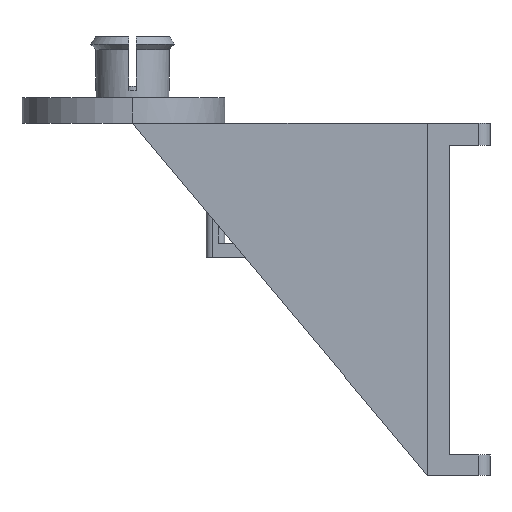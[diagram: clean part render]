
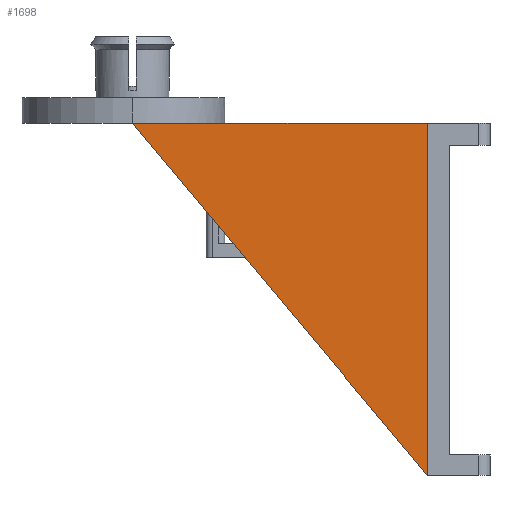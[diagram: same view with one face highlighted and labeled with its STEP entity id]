
A CAD part, left-side view. The second image highlights one B-rep face of the part: STEP entity #1698.
In plain terms, the highlighted planar face has unit normal (-1, 0, 0).
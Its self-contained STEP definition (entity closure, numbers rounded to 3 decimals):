
#212 = PLANE('',#213);
#213 = AXIS2_PLACEMENT_3D('',#214,#215,#216);
#214 = CARTESIAN_POINT('',(36.,35.6,38.4));
#215 = DIRECTION('',(0.,0.,1.));
#216 = DIRECTION('',(1.,0.,-0.));
#238 = PLANE('',#239);
#239 = AXIS2_PLACEMENT_3D('',#240,#241,#242);
#240 = CARTESIAN_POINT('',(37.2,38.,0.2));
#241 = DIRECTION('',(0.,1.,0.));
#242 = DIRECTION('',(1.,0.,0.));
#399 = VERTEX_POINT('',#400);
#400 = CARTESIAN_POINT('',(42.,38.,0.2));
#414 = PLANE('',#415);
#415 = AXIS2_PLACEMENT_3D('',#416,#417,#418);
#416 = CARTESIAN_POINT('',(42.,38.,0.2));
#417 = DIRECTION('',(0.,-0.767,0.642)
  );
#418 = DIRECTION('',(0.,0.642,0.767)
  );
#952 = VERTEX_POINT('',#953);
#953 = CARTESIAN_POINT('',(42.,65.641,38.4));
#980 = EDGE_CURVE('',#952,#981,#983,.T.);
#981 = VERTEX_POINT('',#982);
#982 = CARTESIAN_POINT('',(42.,38.,38.4));
#983 = SURFACE_CURVE('',#984,(#988,#995),.PCURVE_S1.);
#984 = LINE('',#985,#986);
#985 = CARTESIAN_POINT('',(42.,65.641,38.4));
#986 = VECTOR('',#987,1.);
#987 = DIRECTION('',(0.,-1.,0.));
#988 = PCURVE('',#212,#989);
#989 = DEFINITIONAL_REPRESENTATION('',(#990),#994);
#990 = LINE('',#991,#992);
#991 = CARTESIAN_POINT('',(6.,30.041));
#992 = VECTOR('',#993,1.);
#993 = DIRECTION('',(0.,-1.));
#994 = ( GEOMETRIC_REPRESENTATION_CONTEXT(2) 
PARAMETRIC_REPRESENTATION_CONTEXT() REPRESENTATION_CONTEXT('2D SPACE',''
  ) );
#995 = PCURVE('',#996,#1001);
#996 = PLANE('',#997);
#997 = AXIS2_PLACEMENT_3D('',#998,#999,#1000);
#998 = CARTESIAN_POINT('',(42.,48.908,24.392));
#999 = DIRECTION('',(1.,0.,0.));
#1000 = DIRECTION('',(0.,1.,0.));
#1001 = DEFINITIONAL_REPRESENTATION('',(#1002),#1006);
#1002 = LINE('',#1003,#1004);
#1003 = CARTESIAN_POINT('',(16.733,14.008));
#1004 = VECTOR('',#1005,1.);
#1005 = DIRECTION('',(-1.,0.));
#1006 = ( GEOMETRIC_REPRESENTATION_CONTEXT(2) 
PARAMETRIC_REPRESENTATION_CONTEXT() REPRESENTATION_CONTEXT('2D SPACE',''
  ) );
#1035 = EDGE_CURVE('',#981,#399,#1036,.T.);
#1036 = SURFACE_CURVE('',#1037,(#1041,#1048),.PCURVE_S1.);
#1037 = LINE('',#1038,#1039);
#1038 = CARTESIAN_POINT('',(42.,38.,38.4));
#1039 = VECTOR('',#1040,1.);
#1040 = DIRECTION('',(0.,0.,-1.));
#1041 = PCURVE('',#238,#1042);
#1042 = DEFINITIONAL_REPRESENTATION('',(#1043),#1047);
#1043 = LINE('',#1044,#1045);
#1044 = CARTESIAN_POINT('',(4.8,-38.2));
#1045 = VECTOR('',#1046,1.);
#1046 = DIRECTION('',(0.,1.));
#1047 = ( GEOMETRIC_REPRESENTATION_CONTEXT(2) 
PARAMETRIC_REPRESENTATION_CONTEXT() REPRESENTATION_CONTEXT('2D SPACE',''
  ) );
#1048 = PCURVE('',#996,#1049);
#1049 = DEFINITIONAL_REPRESENTATION('',(#1050),#1054);
#1050 = LINE('',#1051,#1052);
#1051 = CARTESIAN_POINT('',(-10.908,14.008));
#1052 = VECTOR('',#1053,1.);
#1053 = DIRECTION('',(0.,-1.));
#1054 = ( GEOMETRIC_REPRESENTATION_CONTEXT(2) 
PARAMETRIC_REPRESENTATION_CONTEXT() REPRESENTATION_CONTEXT('2D SPACE',''
  ) );
#1292 = VERTEX_POINT('',#1293);
#1293 = CARTESIAN_POINT('',(42.,70.,38.4));
#1307 = PLANE('',#1308);
#1308 = AXIS2_PLACEMENT_3D('',#1309,#1310,#1311);
#1309 = CARTESIAN_POINT('',(51.,70.,38.4));
#1310 = DIRECTION('',(0.,0.,1.));
#1311 = DIRECTION('',(1.,0.,-0.));
#1319 = EDGE_CURVE('',#399,#1292,#1320,.T.);
#1320 = SURFACE_CURVE('',#1321,(#1325,#1332),.PCURVE_S1.);
#1321 = LINE('',#1322,#1323);
#1322 = CARTESIAN_POINT('',(42.,38.,0.2));
#1323 = VECTOR('',#1324,1.);
#1324 = DIRECTION('',(0.,0.642,0.767)
  );
#1325 = PCURVE('',#414,#1326);
#1326 = DEFINITIONAL_REPRESENTATION('',(#1327),#1331);
#1327 = LINE('',#1328,#1329);
#1328 = CARTESIAN_POINT('',(0.,0.));
#1329 = VECTOR('',#1330,1.);
#1330 = DIRECTION('',(1.,0.));
#1331 = ( GEOMETRIC_REPRESENTATION_CONTEXT(2) 
PARAMETRIC_REPRESENTATION_CONTEXT() REPRESENTATION_CONTEXT('2D SPACE',''
  ) );
#1332 = PCURVE('',#996,#1333);
#1333 = DEFINITIONAL_REPRESENTATION('',(#1334),#1338);
#1334 = LINE('',#1335,#1336);
#1335 = CARTESIAN_POINT('',(-10.908,-24.192));
#1336 = VECTOR('',#1337,1.);
#1337 = DIRECTION('',(0.642,0.767));
#1338 = ( GEOMETRIC_REPRESENTATION_CONTEXT(2) 
PARAMETRIC_REPRESENTATION_CONTEXT() REPRESENTATION_CONTEXT('2D SPACE',''
  ) );
#1698 = ADVANCED_FACE('',(#1699),#996,.F.);
#1699 = FACE_BOUND('',#1700,.F.);
#1700 = EDGE_LOOP('',(#1701,#1702,#1723,#1724));
#1701 = ORIENTED_EDGE('',*,*,#1319,.T.);
#1702 = ORIENTED_EDGE('',*,*,#1703,.T.);
#1703 = EDGE_CURVE('',#1292,#952,#1704,.T.);
#1704 = SURFACE_CURVE('',#1705,(#1709,#1716),.PCURVE_S1.);
#1705 = LINE('',#1706,#1707);
#1706 = CARTESIAN_POINT('',(42.,70.,38.4));
#1707 = VECTOR('',#1708,1.);
#1708 = DIRECTION('',(0.,-1.,0.));
#1709 = PCURVE('',#996,#1710);
#1710 = DEFINITIONAL_REPRESENTATION('',(#1711),#1715);
#1711 = LINE('',#1712,#1713);
#1712 = CARTESIAN_POINT('',(21.092,14.008));
#1713 = VECTOR('',#1714,1.);
#1714 = DIRECTION('',(-1.,0.));
#1715 = ( GEOMETRIC_REPRESENTATION_CONTEXT(2) 
PARAMETRIC_REPRESENTATION_CONTEXT() REPRESENTATION_CONTEXT('2D SPACE',''
  ) );
#1716 = PCURVE('',#1307,#1717);
#1717 = DEFINITIONAL_REPRESENTATION('',(#1718),#1722);
#1718 = LINE('',#1719,#1720);
#1719 = CARTESIAN_POINT('',(-9.,0.));
#1720 = VECTOR('',#1721,1.);
#1721 = DIRECTION('',(0.,-1.));
#1722 = ( GEOMETRIC_REPRESENTATION_CONTEXT(2) 
PARAMETRIC_REPRESENTATION_CONTEXT() REPRESENTATION_CONTEXT('2D SPACE',''
  ) );
#1723 = ORIENTED_EDGE('',*,*,#980,.T.);
#1724 = ORIENTED_EDGE('',*,*,#1035,.T.);
